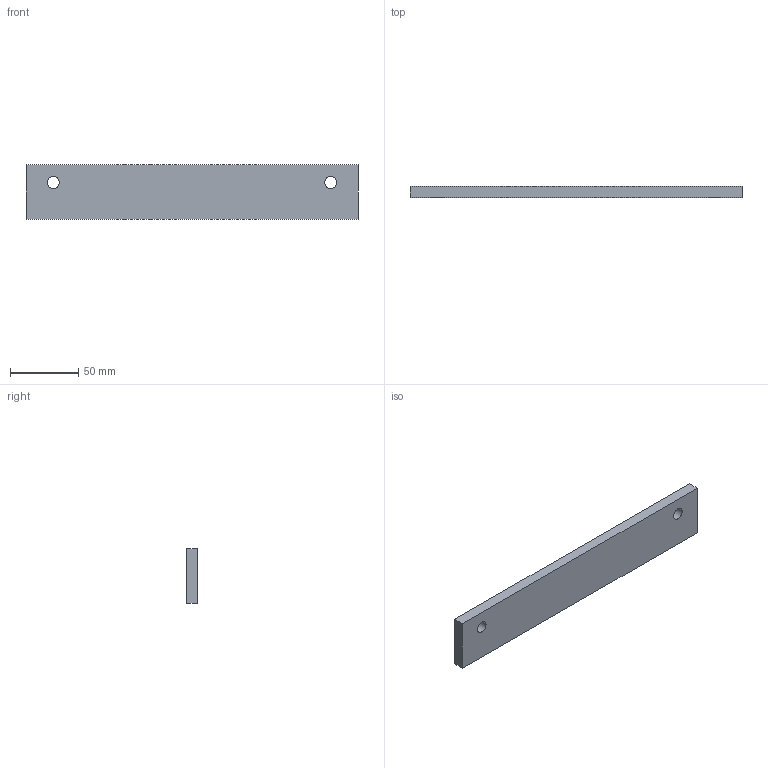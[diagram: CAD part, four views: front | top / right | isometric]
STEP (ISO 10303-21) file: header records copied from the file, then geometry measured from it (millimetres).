
FILE_DESCRIPTION(('Open CASCADE Model'),'2;1');
FILE_NAME('Open CASCADE Shape Model','2026-10-04T01:02:25',('Author'),( 'Open CASCADE'),'Open CASCADE STEP processor 8.0','Open CASCADE 8.0' ,'Unknown');
FILE_SCHEMA(('AUTOMOTIVE_DESIGN { 1 0 10303 214 1 1 1 1 }'));
Length unit declared in the file: millimetre
Products named in the file (1): Open CASCADE STEP translator 8.0 37
Bounding box: 243 x 8 x 40 mm (x, y, z)
Volume: 76786.9 mm3; surface area: 24167.1 mm2
Topology: 1 solids, 1 shells, 8 faces, 18 edges, 12 vertices
Faces by surface type: plane 6, cylinder 2
Full cylindrical faces by diameter (mm): 8.8 x2
Entity records: 478 total; most frequent: DIRECTION 76, CARTESIAN_POINT 75, LINE 46, VECTOR 46, ORIENTED_EDGE 36, PCURVE 36, DEFINITIONAL_REPRESENTATION 36, EDGE_CURVE 18
